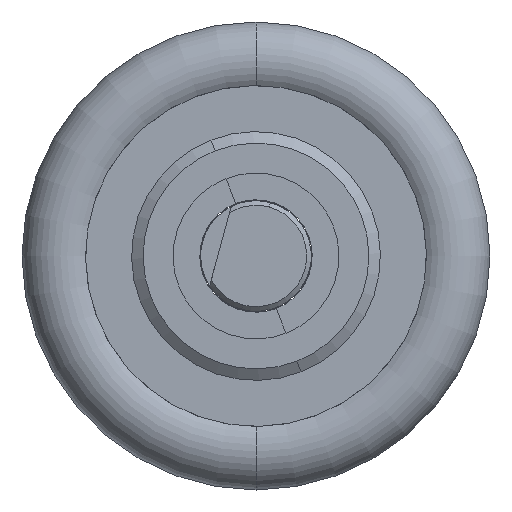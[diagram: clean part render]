
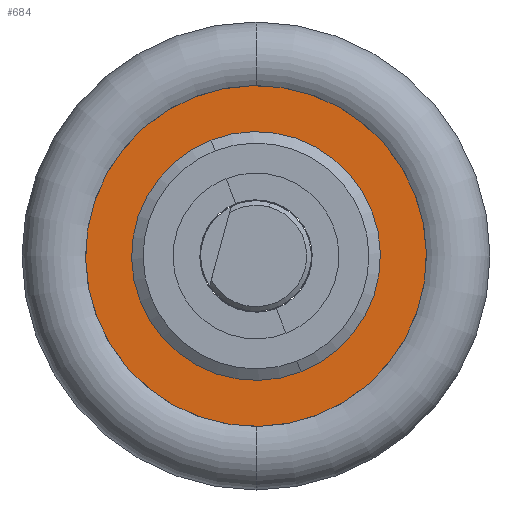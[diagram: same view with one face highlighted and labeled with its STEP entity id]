
A CAD part, left-side view. The second image highlights one B-rep face of the part: STEP entity #684.
In plain terms, the highlighted planar face has unit normal (-1, 0, 0).
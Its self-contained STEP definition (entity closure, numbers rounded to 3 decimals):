
#5 = DIRECTION ( 'NONE',  ( 0., 0., -1. ) ) ;
#35 = CIRCLE ( 'NONE', #203, 13.502 ) ;
#101 = DIRECTION ( 'NONE',  ( 1., 0., 0. ) ) ;
#108 = AXIS2_PLACEMENT_3D ( 'NONE', #1633, #585, #5 ) ;
#152 = EDGE_CURVE ( 'NONE', #258, #1485, #743, .T. ) ;
#203 = AXIS2_PLACEMENT_3D ( 'NONE', #504, #650, #1494 ) ;
#249 = CARTESIAN_POINT ( 'NONE',  ( 5732.803, -1023.949, 0. ) ) ;
#258 = VERTEX_POINT ( 'NONE', #1725 ) ;
#283 = PLANE ( 'NONE',  #419 ) ;
#366 = CIRCLE ( 'NONE', #851, 18.502 ) ;
#419 = AXIS2_PLACEMENT_3D ( 'NONE', #2600, #1127, #2583 ) ;
#504 = CARTESIAN_POINT ( 'NONE',  ( 5732.803, -1023.949, 0. ) ) ;
#515 = DIRECTION ( 'NONE',  ( 0., 0., -1. ) ) ;
#585 = DIRECTION ( 'NONE',  ( 1., 0., 0. ) ) ;
#613 = AXIS2_PLACEMENT_3D ( 'NONE', #1648, #2247, #808 ) ;
#650 = DIRECTION ( 'NONE',  ( 1., 0., 0. ) ) ;
#683 = ORIENTED_EDGE ( 'NONE', *, *, #2619, .T. ) ;
#684 = ADVANCED_FACE ( 'NONE', ( #696, #2369 ), #283, .T. ) ;
#696 = FACE_BOUND ( 'NONE', #1411, .T. ) ;
#743 = CIRCLE ( 'NONE', #613, 18.502 ) ;
#808 = DIRECTION ( 'NONE',  ( 0., 0., -1. ) ) ;
#851 = AXIS2_PLACEMENT_3D ( 'NONE', #249, #101, #515 ) ;
#1090 = EDGE_CURVE ( 'NONE', #1485, #258, #366, .T. ) ;
#1127 = DIRECTION ( 'NONE',  ( -1., 0., 0. ) ) ;
#1156 = EDGE_LOOP ( 'NONE', ( #1361, #2209 ) ) ;
#1361 = ORIENTED_EDGE ( 'NONE', *, *, #152, .F. ) ;
#1362 = CARTESIAN_POINT ( 'NONE',  ( 5732.803, -1023.949, 18.502 ) ) ;
#1411 = EDGE_LOOP ( 'NONE', ( #2664, #683 ) ) ;
#1485 = VERTEX_POINT ( 'NONE', #1362 ) ;
#1494 = DIRECTION ( 'NONE',  ( 0., 0., -1. ) ) ;
#1564 = CIRCLE ( 'NONE', #108, 13.502 ) ;
#1613 = EDGE_CURVE ( 'NONE', #2556, #2260, #1564, .T. ) ;
#1633 = CARTESIAN_POINT ( 'NONE',  ( 5732.803, -1023.949, 0. ) ) ;
#1648 = CARTESIAN_POINT ( 'NONE',  ( 5732.803, -1023.949, 0. ) ) ;
#1725 = CARTESIAN_POINT ( 'NONE',  ( 5732.803, -1023.949, -18.502 ) ) ;
#1796 = CARTESIAN_POINT ( 'NONE',  ( 5732.803, -1023.949, 13.502 ) ) ;
#2209 = ORIENTED_EDGE ( 'NONE', *, *, #1090, .F. ) ;
#2247 = DIRECTION ( 'NONE',  ( 1., 0., 0. ) ) ;
#2260 = VERTEX_POINT ( 'NONE', #1796 ) ;
#2269 = CARTESIAN_POINT ( 'NONE',  ( 5732.803, -1023.949, -13.502 ) ) ;
#2369 = FACE_OUTER_BOUND ( 'NONE', #1156, .T. ) ;
#2556 = VERTEX_POINT ( 'NONE', #2269 ) ;
#2583 = DIRECTION ( 'NONE',  ( 0., 0., 1. ) ) ;
#2600 = CARTESIAN_POINT ( 'NONE',  ( 5732.803, -0.006, 0. ) ) ;
#2619 = EDGE_CURVE ( 'NONE', #2260, #2556, #35, .T. ) ;
#2664 = ORIENTED_EDGE ( 'NONE', *, *, #1613, .T. ) ;
